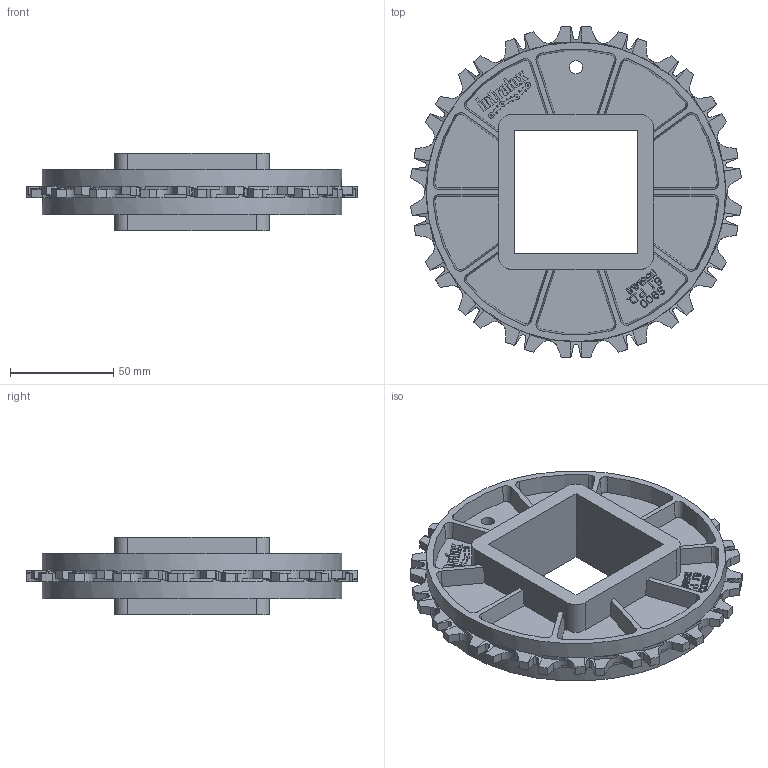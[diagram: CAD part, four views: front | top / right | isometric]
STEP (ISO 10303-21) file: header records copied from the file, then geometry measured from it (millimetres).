
FILE_DESCRIPTION((''),'2;1');
FILE_NAME('S900_SPROCKET_61X25_60_65_SQ','2008-12-12T',('jmumphre'),(''),'PRO/ENGINEER BY PARAMETRIC TECHNOLOGY CORPORATION, 2008150','PRO/ENGINEER BY PARAMETRIC TECHNOLOGY CORPORATION, 2008150','');
FILE_SCHEMA(('CONFIG_CONTROL_DESIGN'));
Length unit declared in the file: inch
Products named in the file (1): S900_SPROCKET_61X25_60_65_SQ
Bounding box: 160.25 x 160.22 x 37.59 mm (x, y, z)
Volume: 178678.1 mm3; surface area: 74662.8 mm2
Topology: 1 solids, 1 shells, 1195 faces, 3453 edges, 2302 vertices
Faces by surface type: plane 978, cylinder 157, cone 60
Entity records: 39000 total; most frequent: CARTESIAN_POINT 7257, ORIENTED_EDGE 6906, DIRECTION 6169, EDGE_CURVE 3453, VECTOR 2911, LINE 2911, VERTEX_POINT 2302, AXIS2_PLACEMENT_3D 1629
